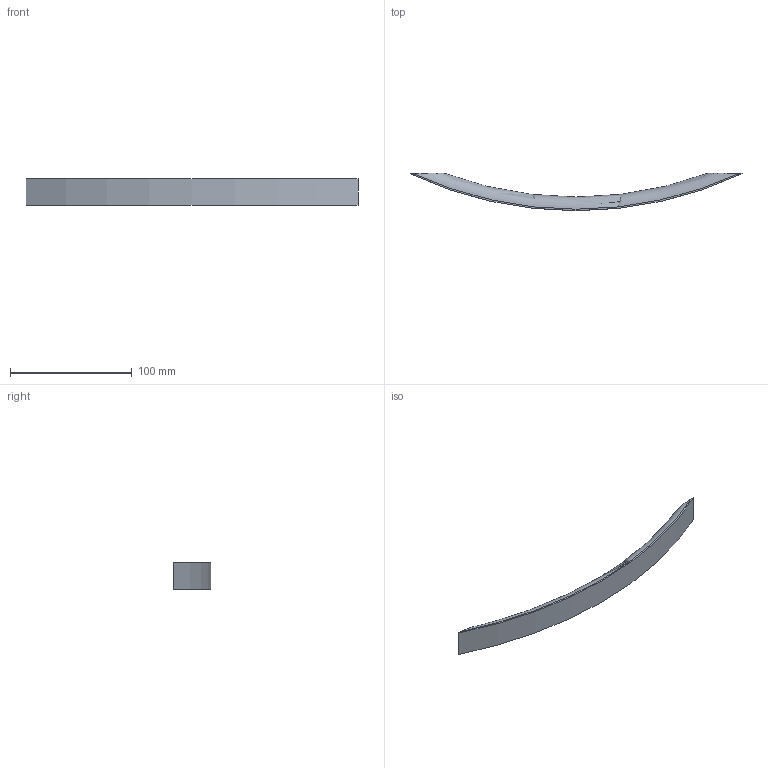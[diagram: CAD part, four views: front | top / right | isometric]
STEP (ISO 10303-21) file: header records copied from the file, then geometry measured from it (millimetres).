
FILE_DESCRIPTION( ( '' ), '1' );
FILE_NAME( 'C:/Documents and Settings/Sachin/Desktop/Sheet 10_1/stp/9113334.stp', '2013-10-22T08:58:44', ( '' ), ( '' ), ' ', ' ', ' ' );
FILE_SCHEMA( ( 'CONFIG_CONTROL_DESIGN' ) );
Length unit declared in the file: millimetre
Products named in the file (1): 1
Bounding box: 272.5 x 30.74 x 21.5 mm (x, y, z)
Volume: 36266.3 mm3; surface area: 25799.8 mm2
Topology: 1 solids, 1 shells, 31 faces, 81 edges, 54 vertices
Faces by surface type: torus 17, plane 10, cylinder 4
Entity records: 1618 total; most frequent: CARTESIAN_POINT 837, ORIENTED_EDGE 162, DIRECTION 140, EDGE_CURVE 81, AXIS2_PLACEMENT_3D 61, VERTEX_POINT 54, EDGE_LOOP 37, B_SPLINE_CURVE_WITH_KNOTS 34
